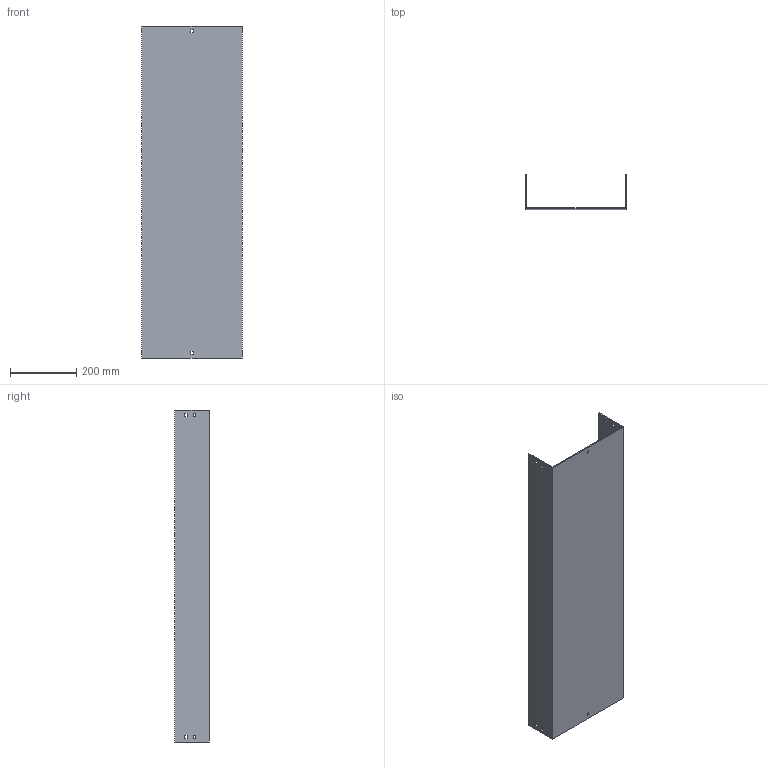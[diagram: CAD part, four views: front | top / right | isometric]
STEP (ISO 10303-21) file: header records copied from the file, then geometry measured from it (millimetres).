
FILE_DESCRIPTION (( 'STEP AP214' ), '1' );
FILE_NAME ('03F1D300.step', '2025-02-21T13:15:30', ( '' ), ( '' ), 'SwSTEP 2.0', 'SolidWorks 2023', '' );
FILE_SCHEMA (( 'AUTOMOTIVE_DESIGN' ));
Length unit declared in the file: millimetre
Products named in the file (1): 03F1D300
Bounding box: 304 x 104 x 1000 mm (x, y, z)
Volume: 1765130.5 mm3; surface area: 1020350 mm2
Topology: 1 solids, 1 shells, 50 faces, 144 edges, 96 vertices
Faces by surface type: plane 50
Entity records: 1671 total; most frequent: CARTESIAN_POINT 291, ORIENTED_EDGE 288, DIRECTION 246, EDGE_CURVE 144, VECTOR 144, LINE 144, VERTEX_POINT 96, EDGE_LOOP 70
